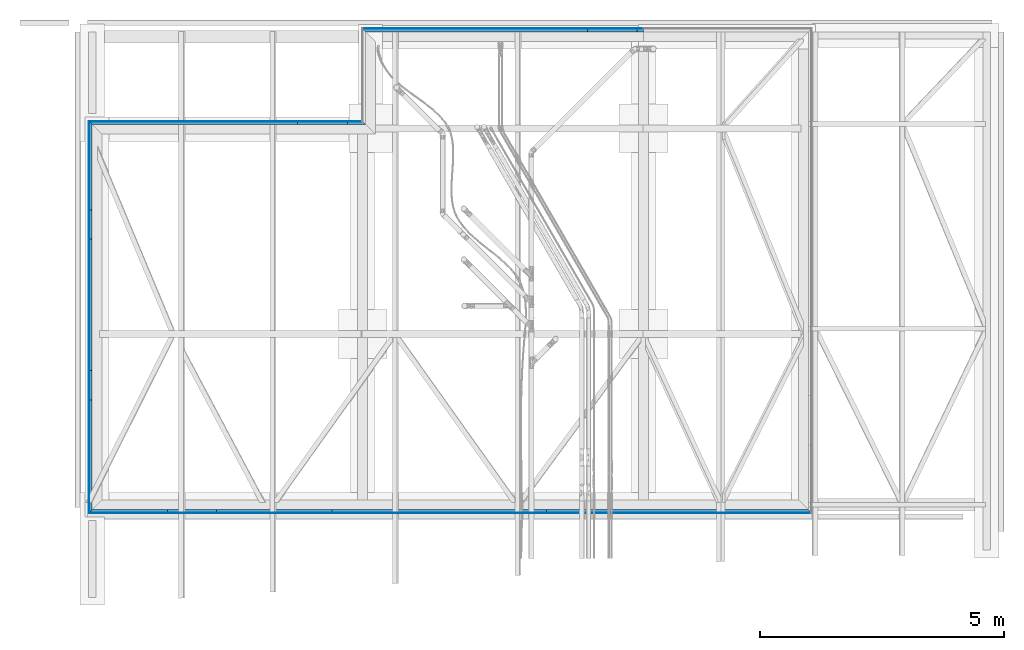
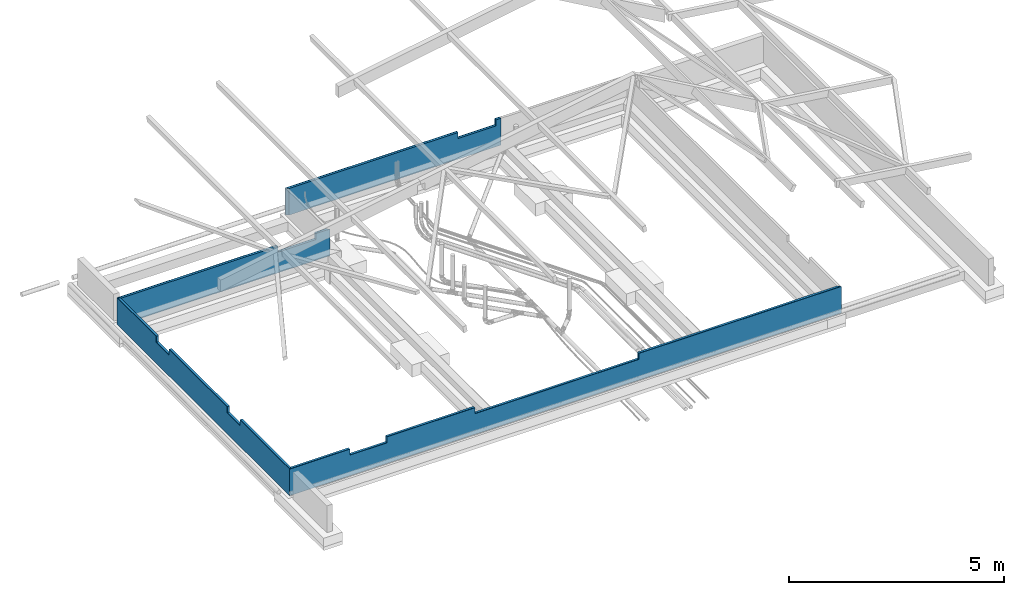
# One storey, part 4 of 18: 8 building element parts, 4 elements without a shape of their own.
"""IFC4 building model written with IfcOpenShell, lengths in centimetres."""

from ifc_helpers import new_model, entity, si_unit, converted_unit, derived_unit, direction, frame, origin, place, context, subcontext, project, spatial, polygons, material, type_object, element, aggregate, save


model = new_model("IFC4")

# Units and contexts
model_context = context("Model", 3, precision=0.001, world=origin(), true_north=direction((6.123233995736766e-17, 1.0)))
body_context = subcontext(model_context, "Body", "Model", "MODEL_VIEW")
ifc_project = project(units=[si_unit("LENGTHUNIT", "METRE", prefix="CENTI"), si_unit("AREAUNIT", "SQUARE_METRE"), converted_unit("PLANEANGLEUNIT", "DEGREE", entity("IfcPlaneAngleMeasure", 0.017453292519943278), si_unit("PLANEANGLEUNIT", "RADIAN"), dimensions=[0, 0, 0, 0, 0, 0, 0]), si_unit("VOLUMEUNIT", "CUBIC_METRE"), derived_unit("THERMALTRANSMITTANCEUNIT", [(si_unit("MASSUNIT", "GRAM", prefix="KILO"), 1), (si_unit("THERMODYNAMICTEMPERATUREUNIT", "KELVIN"), -1), (si_unit("TIMEUNIT", "SECOND"), -3)])], contexts=[model_context])

# Site, building, storey
site_placement = place(None, frame((-0.003347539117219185, 0.0, 0.0)))
site = spatial("IfcSite", under=ifc_project, at=site_placement, Name="Default", CompositionType="ELEMENT")
building_placement = place(site_placement, origin())
building = spatial("IfcBuilding", under=site, at=building_placement, CompositionType="ELEMENT")
storey_placement = place(building_placement, frame((0.0, 0.0, -30.0)))
storey = spatial("IfcBuildingStorey", under=building, at=storey_placement, Name="Fondation B.O.", CompositionType="ELEMENT", Elevation=-30.0)

# Wall, building element parts
wall_type = type_object("IfcWallType", Name="Mur de base:Soubassement 20 cm + Isolant", PredefinedType="STANDARD")
wall_1_placement = place(storey_placement, frame((-6782.086652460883, -1875.875884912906, 30.0), z_axis=(0.0, 0.0, 1.0), x_axis=(0.0, -1.0, 0.0)))
wall_1 = element("IfcWall", 1, at=wall_1_placement, inside=storey, type_object=wall_type, Name="Mur de base:Soubassement 20 cm + Isolant", ObjectType="Mur de base:Soubassement 20 cm + Isolant", PredefinedType="NOTDEFINED")
ifc_material_1 = material(Name="Isolant rigide", Category="Générique")
building_element_part_1_placement = place(wall_1_placement, origin())
building_element_part_1 = element("IfcBuildingElementPart", 2, at=building_element_part_1_placement, material=ifc_material_1, Name="Isolant rigide", context=body_context, shape_type="Tessellation", body=[
    polygons([(0.9999999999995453, -12.499999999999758, -30.0), (802.9999999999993, -12.499999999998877, -30.0), (803.0000000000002, -12.499999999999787, 29.000000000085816), (802.9999999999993, -12.499999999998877, 46.000000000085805), (571.9999999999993, -12.499999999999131, 46.00000000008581), (571.9999999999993, -12.499999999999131, 29.00000000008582), (511.9999999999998, -12.499999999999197, 29.000000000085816), (511.9999999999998, -12.499999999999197, 46.00000000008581), (241.99999999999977, -12.499999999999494, 46.00000000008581), (241.99999999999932, -12.499999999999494, 29.00000000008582), (181.99999999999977, -12.49999999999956, 29.000000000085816), (181.99999999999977, -12.49999999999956, 46.00000000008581), (0.9999999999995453, -12.499999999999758, 46.000000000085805), (0.9999999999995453, -12.499999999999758, 29.000000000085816), (6.999999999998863, -6.499999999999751, -30.0), (796.9999999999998, -6.499999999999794, -30.0), (797.0000000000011, -6.499999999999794, -10.999999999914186), (797.0000000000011, -6.499999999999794, 29.000000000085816), (797.0000000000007, -6.499999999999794, 46.000000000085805), (6.999999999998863, -6.499999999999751, 46.000000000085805), (6.999999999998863, -6.499999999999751, 29.000000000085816), (6.999999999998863, -6.499999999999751, -10.999999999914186), (241.99999999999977, -6.499999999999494, 29.000000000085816), (181.99999999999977, -6.4999999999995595, 29.000000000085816), (181.99999999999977, -6.4999999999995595, 46.00000000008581), (241.99999999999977, -6.499999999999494, 46.000000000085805), (511.9999999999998, -6.500000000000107, 46.00000000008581), (511.9999999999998, -6.500000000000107, 29.000000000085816), (571.9999999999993, -6.500000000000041, 29.000000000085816), (571.9999999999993, -6.500000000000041, 46.00000000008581)], [[[1, 2, 3, 4, 5, 6, 7, 8, 9, 10, 11, 12, 13, 14]], [[2, 1, 15, 16]], [[3, 2, 16, 17, 18, 19, 4]], [[1, 14, 13, 20, 21, 22, 15]], [[11, 10, 23, 24]], [[16, 15, 22, 21, 20, 25, 24, 23, 26, 27, 28, 29, 30, 19, 18, 17]], [[5, 4, 19, 30]], [[12, 11, 24, 25]], [[10, 9, 26, 23]], [[13, 12, 25, 20]], [[8, 7, 28, 27]], [[6, 5, 30, 29]], [[9, 8, 27, 26]], [[7, 6, 29, 28]]], closed=True),
])
ifc_material_2 = material(Name="Béton, règle sable/ciment", Category="Béton")
building_element_part_2_placement = place(wall_1_placement, origin())
building_element_part_2 = element("IfcBuildingElementPart", 3, at=building_element_part_2_placement, material=ifc_material_2, Name="Béton, règle sable/ciment", context=body_context, shape_type="Tessellation", body=[
    polygons([(802.9999999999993, -12.499999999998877, -30.0), (0.9999999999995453, -12.499999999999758, -30.0), (0.9999999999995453, -12.499999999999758, 29.000000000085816), (0.9999999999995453, -12.499999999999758, 46.000000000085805), (181.99999999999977, -12.49999999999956, 46.000000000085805), (181.99999999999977, -12.49999999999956, 29.000000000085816), (241.99999999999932, -12.499999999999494, 29.00000000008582), (241.99999999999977, -12.499999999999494, 46.00000000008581), (511.9999999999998, -12.499999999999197, 46.00000000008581), (511.9999999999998, -12.499999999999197, 29.000000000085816), (571.9999999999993, -12.499999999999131, 29.00000000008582), (571.9999999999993, -12.499999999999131, 46.00000000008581), (802.9999999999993, -12.499999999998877, 46.000000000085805), (803.0000000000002, -12.499999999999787, 29.000000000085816), (803.9999999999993, -13.499999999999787, -30.0), (-2.2737367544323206e-13, -13.49999999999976, -30.0), (803.9999999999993, -13.499999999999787, 46.000000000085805), (803.9999999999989, -13.499999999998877, 29.000000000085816), (0.0, -13.49999999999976, 29.000000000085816), (-2.2737367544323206e-13, -13.49999999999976, 46.000000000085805), (181.99999999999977, -13.49999999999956, 29.00000000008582), (241.99999999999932, -13.499999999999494, 29.00000000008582), (571.9999999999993, -13.50000000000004, 46.000000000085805), (571.9999999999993, -13.50000000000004, 29.00000000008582), (511.9999999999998, -13.500000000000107, 29.00000000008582), (511.9999999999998, -13.500000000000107, 46.000000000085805), (241.99999999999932, -13.499999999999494, 46.000000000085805), (181.99999999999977, -13.49999999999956, 46.000000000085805)], [[[1, 2, 3, 4, 5, 6, 7, 8, 9, 10, 11, 12, 13, 14]], [[2, 1, 15, 16]], [[1, 14, 13, 17, 18, 15]], [[3, 2, 16, 19, 20, 4]], [[7, 6, 21, 22]], [[16, 15, 18, 17, 23, 24, 25, 26, 27, 22, 21, 28, 20, 19]], [[5, 4, 20, 28]], [[6, 5, 28, 21]], [[8, 7, 22, 27]], [[9, 8, 27, 26]], [[10, 9, 26, 25]], [[12, 11, 24, 23]], [[13, 12, 23, 17]], [[11, 10, 25, 24]]], closed=True),
])
aggregate(wall_1, [building_element_part_1, building_element_part_2])

wall_2_placement = place(storey_placement, frame((-6795.586652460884, -2666.375884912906, 30.0)))
wall_2 = element("IfcWall", 4, at=wall_2_placement, inside=storey, type_object=wall_type, Name="Mur de base:Soubassement 20 cm + Isolant", ObjectType="Mur de base:Soubassement 20 cm + Isolant", PredefinedType="NOTDEFINED")
building_element_part_3_placement = place(wall_2_placement, origin())
building_element_part_3 = element("IfcBuildingElementPart", 5, at=building_element_part_3_placement, material=ifc_material_1, Name="Isolant rigide", context=body_context, shape_type="Tessellation", body=[
    polygons([(0.9999999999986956, -12.500000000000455, -30.0), (1482.0000000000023, -12.500000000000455, -30.0), (1482.0000000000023, -12.500000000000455, 29.000000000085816), (1482.0000000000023, -12.500000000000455, 46.000000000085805), (938.4999999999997, -12.500000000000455, 46.00000000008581), (938.5000000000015, -12.500000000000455, 29.00000000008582), (498.50000000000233, -12.500000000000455, 29.000000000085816), (498.5000000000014, -12.500000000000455, 46.00000000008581), (261.9999999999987, -12.5, 46.00000000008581), (261.9999999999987, -12.5, 29.000000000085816), (161.99999999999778, -12.5, 29.00000000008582), (161.99999999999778, -12.5, 46.00000000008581), (0.9999999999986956, -12.500000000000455, 46.000000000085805), (0.9999999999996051, -12.500000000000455, 29.000000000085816), (7.000000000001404, -6.499999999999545, -30.0), (1476.0000000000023, -6.5, -30.0), (1476.0000000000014, -6.5, -10.999999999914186), (1476.0000000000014, -6.5, 29.000000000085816), (1476.0000000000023, -6.5, 46.000000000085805), (7.000000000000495, -6.499999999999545, 46.000000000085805), (7.000000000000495, -6.499999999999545, 29.000000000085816), (7.000000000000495, -6.499999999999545, -10.999999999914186), (938.5000000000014, -6.5, 29.000000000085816), (498.5000000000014, -6.5, 29.000000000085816), (161.99999999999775, -6.4999999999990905, 46.00000000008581), (161.99999999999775, -6.499999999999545, 29.000000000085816), (261.9999999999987, -6.500000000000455, 29.000000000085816), (261.9999999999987, -6.499999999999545, 46.000000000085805), (498.5000000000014, -6.5, 46.00000000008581), (938.5000000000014, -6.5, 46.00000000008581)], [[[1, 2, 3, 4, 5, 6, 7, 8, 9, 10, 11, 12, 13, 14]], [[2, 1, 15, 16]], [[3, 2, 16, 17, 18, 19, 4]], [[1, 14, 13, 20, 21, 22, 15]], [[7, 6, 23, 24]], [[16, 15, 22, 21, 20, 25, 26, 27, 28, 29, 24, 23, 30, 19, 18, 17]], [[13, 12, 25, 20]], [[12, 11, 26, 25]], [[10, 9, 28, 27]], [[9, 8, 29, 28]], [[8, 7, 24, 29]], [[6, 5, 30, 23]], [[5, 4, 19, 30]], [[11, 10, 27, 26]]], closed=True),
])
building_element_part_4_placement = place(wall_2_placement, origin())
building_element_part_4 = element("IfcBuildingElementPart", 6, at=building_element_part_4_placement, material=ifc_material_2, Name="Béton, règle sable/ciment", context=body_context, shape_type="Tessellation", body=[
    polygons([(1482.0000000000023, -12.500000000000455, -30.0), (0.9999999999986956, -12.500000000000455, -30.0), (0.9999999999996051, -12.500000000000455, 29.000000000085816), (0.9999999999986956, -12.500000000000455, 46.000000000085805), (161.99999999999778, -12.5, 46.00000000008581), (161.99999999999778, -12.5, 29.00000000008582), (261.9999999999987, -12.5, 29.000000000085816), (261.9999999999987, -12.5, 46.00000000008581), (498.5000000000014, -12.500000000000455, 46.00000000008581), (498.50000000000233, -12.500000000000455, 29.000000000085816), (938.5000000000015, -12.500000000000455, 29.00000000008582), (938.4999999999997, -12.500000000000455, 46.00000000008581), (1482.0000000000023, -12.500000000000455, 46.000000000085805), (1482.0000000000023, -12.500000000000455, 29.000000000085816), (1483.0000000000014, -13.5, -30.0), (5.178247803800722e-13, -13.500000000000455, -30.0), (1483.0000000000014, -13.5, 46.000000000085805), (1483.0000000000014, -13.5, 29.000000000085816), (5.178247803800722e-13, -13.500000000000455, 29.000000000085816), (5.178247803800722e-13, -13.500000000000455, 46.000000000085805), (498.50000000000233, -13.5, 29.00000000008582), (938.5000000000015, -13.5, 29.00000000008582), (938.5000000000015, -13.5, 46.000000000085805), (498.5000000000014, -13.5, 46.000000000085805), (261.9999999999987, -13.5, 46.000000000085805), (261.9999999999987, -13.5, 29.00000000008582), (161.99999999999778, -13.5, 29.00000000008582), (161.99999999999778, -13.5, 46.000000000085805)], [[[1, 2, 3, 4, 5, 6, 7, 8, 9, 10, 11, 12, 13, 14]], [[2, 1, 15, 16]], [[1, 14, 13, 17, 18, 15]], [[3, 2, 16, 19, 20, 4]], [[11, 10, 21, 22]], [[16, 15, 18, 17, 23, 22, 21, 24, 25, 26, 27, 28, 20, 19]], [[5, 4, 20, 28]], [[6, 5, 28, 27]], [[8, 7, 26, 25]], [[9, 8, 25, 24]], [[10, 9, 24, 21]], [[12, 11, 22, 23]], [[13, 12, 23, 17]], [[7, 6, 27, 26]]], closed=True),
])
aggregate(wall_2, [building_element_part_3, building_element_part_4])

wall_3_placement = place(storey_placement, frame((-6207.58665246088, -1889.375884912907, 30.0), z_axis=(0.0, 0.0, 1.0), x_axis=(-1.0, 0.0, 0.0)))
wall_3 = element("IfcWall", 7, at=wall_3_placement, inside=storey, type_object=wall_type, Name="Mur de base:Soubassement 20 cm + Isolant", ObjectType="Mur de base:Soubassement 20 cm + Isolant", PredefinedType="NOTDEFINED")
building_element_part_5_placement = place(wall_3_placement, origin())
building_element_part_5 = element("IfcBuildingElementPart", 8, at=building_element_part_5_placement, material=ifc_material_1, Name="Isolant rigide", context=body_context, shape_type="Tessellation", body=[
    polygons([(26.00000000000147, -12.5, -30.0), (587.0000000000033, -12.500000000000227, -30.0), (587.0000000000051, -12.500000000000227, 29.000000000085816), (587.0000000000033, -12.500000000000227, 46.000000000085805), (159.5000000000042, -12.500000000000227, 46.00000000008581), (159.50000000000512, -12.5, 29.000000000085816), (57.50000000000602, -12.5, 29.00000000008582), (57.50000000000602, -12.5, 46.00000000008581), (26.00000000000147, -12.5, 46.000000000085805), (26.00000000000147, -12.5, 29.000000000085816), (20.00000000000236, -6.5, -30.0), (581.0000000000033, -6.500000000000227, -30.0), (581.0000000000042, -6.500000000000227, -10.999999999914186), (581.0000000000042, -6.500000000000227, 29.000000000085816), (581.0000000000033, -6.500000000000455, 46.000000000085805), (20.00000000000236, -6.5, 46.000000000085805), (20.00000000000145, -6.5, 29.00000000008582), (20.00000000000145, -6.5, -10.999999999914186), (159.5000000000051, -6.5, 29.00000000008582), (57.500000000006, -6.500000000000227, 29.00000000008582), (57.500000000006, -6.500000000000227, 46.00000000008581), (159.5000000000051, -6.499999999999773, 46.00000000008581)], [[[1, 2, 3, 4, 5, 6, 7, 8, 9, 10]], [[2, 1, 11, 12]], [[3, 2, 12, 13, 14, 15, 4]], [[1, 10, 9, 16, 17, 18, 11]], [[7, 6, 19, 20]], [[12, 11, 18, 17, 16, 21, 20, 19, 22, 15, 14, 13]], [[9, 8, 21, 16]], [[8, 7, 20, 21]], [[6, 5, 22, 19]], [[5, 4, 15, 22]]], closed=True),
])
building_element_part_6_placement = place(wall_3_placement, origin())
building_element_part_6 = element("IfcBuildingElementPart", 9, at=building_element_part_6_placement, material=ifc_material_2, Name="Béton, règle sable/ciment", context=body_context, shape_type="Tessellation", body=[
    polygons([(587.0000000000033, -12.500000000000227, -30.0), (26.00000000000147, -12.5, -30.0), (26.00000000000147, -12.5, 29.000000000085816), (26.00000000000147, -12.5, 46.000000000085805), (57.50000000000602, -12.5, 46.00000000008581), (57.50000000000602, -12.5, 29.00000000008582), (159.50000000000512, -12.5, 29.000000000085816), (159.5000000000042, -12.500000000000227, 46.00000000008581), (587.0000000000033, -12.500000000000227, 46.000000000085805), (587.0000000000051, -12.500000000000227, 29.000000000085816), (588.0000000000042, -13.5, -30.0), (27.00000000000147, -13.499999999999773, -30.0), (588.0000000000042, -13.5, 46.000000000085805), (588.0000000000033, -13.500000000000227, 29.000000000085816), (27.00000000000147, -13.5, 29.000000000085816), (27.00000000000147, -13.499999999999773, 46.000000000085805), (57.50000000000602, -13.500000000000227, 29.00000000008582), (159.50000000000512, -13.5, 29.00000000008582), (159.50000000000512, -13.5, 46.000000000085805), (57.50000000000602, -13.500000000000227, 46.000000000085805)], [[[1, 2, 3, 4, 5, 6, 7, 8, 9, 10]], [[2, 1, 11, 12]], [[1, 10, 9, 13, 14, 11]], [[3, 2, 12, 15, 16, 4]], [[7, 6, 17, 18]], [[12, 11, 14, 13, 19, 18, 17, 20, 16, 15]], [[5, 4, 16, 20]], [[6, 5, 20, 17]], [[8, 7, 18, 19]], [[9, 8, 19, 13]]], closed=True),
])
aggregate(wall_3, [building_element_part_5, building_element_part_6])

wall_4_placement = place(storey_placement, frame((-6234.586652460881, -1699.3758849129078, 30.0)))
wall_4 = element("IfcWall", 10, at=wall_4_placement, inside=storey, type_object=wall_type, Name="Mur de base:Soubassement 20 cm + Isolant", ObjectType="Mur de base:Soubassement 20 cm + Isolant", PredefinedType="NOTDEFINED")
building_element_part_7_placement = place(wall_4_placement, origin())
building_element_part_7 = element("IfcBuildingElementPart", 11, at=building_element_part_7_placement, material=ifc_material_1, Name="Isolant rigide", context=body_context, shape_type="Tessellation", body=[
    polygons([(576.9999999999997, 12.499999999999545, -30.0), (0.9999999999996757, 12.5, -30.0), (0.9999999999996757, 12.5, 29.000000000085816), (0.9999999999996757, 12.5, 46.000000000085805), (461.59999999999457, 12.499999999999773, 46.00000000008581), (461.5999999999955, 12.499999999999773, 29.00000000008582), (563.5999999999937, 12.499999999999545, 29.000000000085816), (563.5999999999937, 12.499999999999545, 46.00000000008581), (576.9999999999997, 12.499999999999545, 46.000000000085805), (576.9999999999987, 12.499999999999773, 29.000000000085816), (576.9999999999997, 6.5, -30.0), (6.999999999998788, 6.500000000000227, -30.0), (576.9999999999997, 6.5, 46.000000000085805), (576.9999999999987, 6.5, 29.000000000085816), (576.9999999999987, 6.5, -10.999999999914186), (6.999999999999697, 6.5, -10.999999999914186), (6.999999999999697, 6.5, 29.000000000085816), (6.999999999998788, 6.500000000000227, 46.000000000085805), (461.59999999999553, 6.5, 29.000000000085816), (563.5999999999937, 6.5, 29.000000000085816), (563.5999999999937, 6.5, 46.00000000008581), (461.5999999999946, 6.5, 46.00000000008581)], [[[1, 2, 3, 4, 5, 6, 7, 8, 9, 10]], [[2, 1, 11, 12]], [[1, 10, 9, 13, 14, 15, 11]], [[3, 2, 12, 16, 17, 18, 4]], [[7, 6, 19, 20]], [[12, 11, 15, 14, 13, 21, 20, 19, 22, 18, 17, 16]], [[9, 8, 21, 13]], [[8, 7, 20, 21]], [[6, 5, 22, 19]], [[5, 4, 18, 22]]], closed=True),
])
building_element_part_8_placement = place(wall_4_placement, origin())
building_element_part_8 = element("IfcBuildingElementPart", 12, at=building_element_part_8_placement, material=ifc_material_2, Name="Béton, règle sable/ciment", context=body_context, shape_type="Tessellation", body=[
    polygons([(0.9999999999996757, 12.5, -30.0), (576.9999999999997, 12.499999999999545, -30.0), (576.9999999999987, 12.499999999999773, 29.000000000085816), (576.9999999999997, 12.499999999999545, 46.000000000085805), (563.5999999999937, 12.499999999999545, 46.00000000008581), (563.5999999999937, 12.499999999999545, 29.000000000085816), (461.5999999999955, 12.499999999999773, 29.00000000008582), (461.59999999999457, 12.499999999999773, 46.00000000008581), (0.9999999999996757, 12.5, 46.000000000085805), (0.9999999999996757, 12.5, 29.000000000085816), (-3.2785267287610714e-13, 13.5, -30.0), (576.9999999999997, 13.499999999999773, -30.0), (576.9999999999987, 13.499999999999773, 29.000000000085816), (576.9999999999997, 13.499999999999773, 46.000000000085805), (-3.2785267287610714e-13, 13.5, 46.000000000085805), (-3.2785267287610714e-13, 13.5, 29.000000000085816), (563.5999999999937, 13.5, 29.00000000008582), (461.5999999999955, 13.499999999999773, 29.00000000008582), (461.5999999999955, 13.499999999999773, 46.000000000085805), (563.5999999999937, 13.5, 46.000000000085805)], [[[1, 2, 3, 4, 5, 6, 7, 8, 9, 10]], [[2, 1, 11, 12]], [[3, 2, 12, 13, 14, 4]], [[1, 10, 9, 15, 16, 11]], [[7, 6, 17, 18]], [[12, 11, 16, 15, 19, 18, 17, 20, 14, 13]], [[5, 4, 14, 20]], [[6, 5, 20, 17]], [[8, 7, 18, 19]], [[9, 8, 19, 15]]], closed=True),
])
aggregate(wall_4, [building_element_part_7, building_element_part_8])

save(model, "model.ifc")
